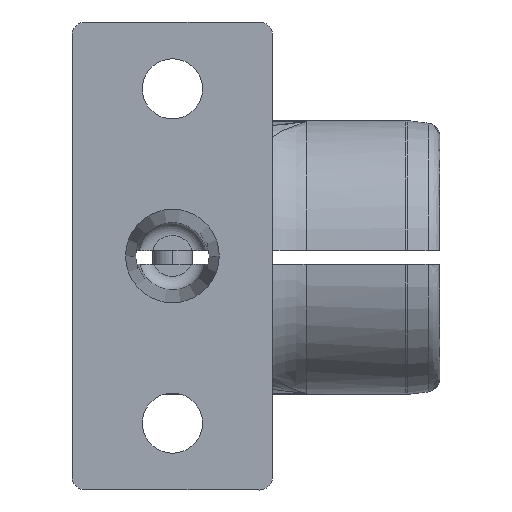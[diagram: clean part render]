
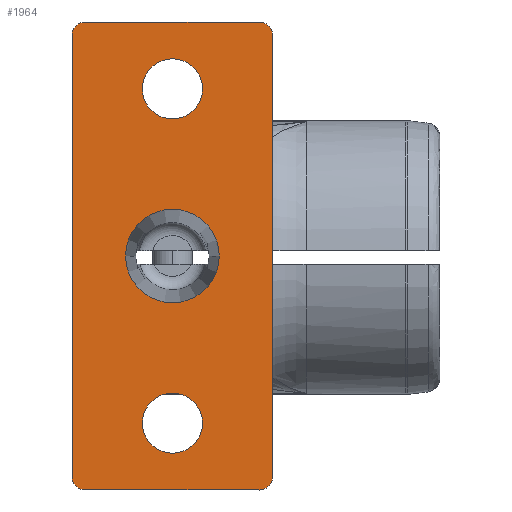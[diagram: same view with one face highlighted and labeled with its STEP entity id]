
A CAD part, front view. The second image highlights one B-rep face of the part: STEP entity #1964.
In plain terms, the highlighted planar face has unit normal (0, -1, 0).
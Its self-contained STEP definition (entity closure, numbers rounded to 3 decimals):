
#57 = DIRECTION ( 'NONE',  ( 0., -1., 0. ) ) ;
#78 = ORIENTED_EDGE ( 'NONE', *, *, #4363, .F. ) ;
#97 = EDGE_CURVE ( 'NONE', #3947, #438, #1578, .T. ) ;
#223 = CARTESIAN_POINT ( 'NONE',  ( 13., -10., -14.268 ) ) ;
#238 = CARTESIAN_POINT ( 'NONE',  ( -13., -10., 53.732 ) ) ;
#284 = DIRECTION ( 'NONE',  ( 0., 0., 1. ) ) ;
#296 = CIRCLE ( 'NONE', #488, 4.5 ) ;
#303 = DIRECTION ( 'NONE',  ( 0., 1., 0. ) ) ;
#368 = VECTOR ( 'NONE', #1536, 1000. ) ;
#384 = VERTEX_POINT ( 'NONE', #689 ) ;
#386 = EDGE_CURVE ( 'NONE', #2908, #4023, #1048, .T. ) ;
#438 = VERTEX_POINT ( 'NONE', #720 ) ;
#488 = AXIS2_PLACEMENT_3D ( 'NONE', #1653, #5654, #5032 ) ;
#594 = AXIS2_PLACEMENT_3D ( 'NONE', #5539, #6205, #6917 ) ;
#601 = ORIENTED_EDGE ( 'NONE', *, *, #2878, .F. ) ;
#648 = EDGE_CURVE ( 'NONE', #4645, #3729, #6419, .T. ) ;
#689 = CARTESIAN_POINT ( 'NONE',  ( -13., -10., -14.268 ) ) ;
#720 = CARTESIAN_POINT ( 'NONE',  ( 4.5, -10., -4.268 ) ) ;
#774 = DIRECTION ( 'NONE',  ( 1., 0., 0. ) ) ;
#804 = LINE ( 'NONE', #5685, #368 ) ;
#827 = ORIENTED_EDGE ( 'NONE', *, *, #7464, .F. ) ;
#1047 = DIRECTION ( 'NONE',  ( 1., 0., 0. ) ) ;
#1048 = CIRCLE ( 'NONE', #5274, 7. ) ;
#1072 = DIRECTION ( 'NONE',  ( 0., 1., 0. ) ) ;
#1132 = EDGE_CURVE ( 'NONE', #6578, #3560, #4669, .T. ) ;
#1243 = CARTESIAN_POINT ( 'NONE',  ( -15., -10., -12.268 ) ) ;
#1266 = CARTESIAN_POINT ( 'NONE',  ( 13., -10., 53.732 ) ) ;
#1268 = PLANE ( 'NONE',  #8537 ) ;
#1350 = CARTESIAN_POINT ( 'NONE',  ( 13., -10., 55.732 ) ) ;
#1399 = AXIS2_PLACEMENT_3D ( 'NONE', #4472, #7196, #2517 ) ;
#1422 = CIRCLE ( 'NONE', #594, 4.5 ) ;
#1474 = CARTESIAN_POINT ( 'NONE',  ( 0., -10., -14.268 ) ) ;
#1479 = LINE ( 'NONE', #1773, #5126 ) ;
#1536 = DIRECTION ( 'NONE',  ( 0., 0., -1. ) ) ;
#1578 = CIRCLE ( 'NONE', #6915, 4.5 ) ;
#1636 = CIRCLE ( 'NONE', #6639, 2. ) ;
#1653 = CARTESIAN_POINT ( 'NONE',  ( 0., -10., -4.268 ) ) ;
#1773 = CARTESIAN_POINT ( 'NONE',  ( 0., -10., 55.732 ) ) ;
#1791 = EDGE_CURVE ( 'NONE', #6375, #5290, #1422, .T. ) ;
#1872 = EDGE_CURVE ( 'NONE', #384, #7769, #1636, .T. ) ;
#1881 = ORIENTED_EDGE ( 'NONE', *, *, #6021, .F. ) ;
#1964 = ADVANCED_FACE ( 'NONE', ( #7835, #4313, #4735, #7274 ), #1268, .F. ) ;
#1998 = ORIENTED_EDGE ( 'NONE', *, *, #6242, .F. ) ;
#2340 = CARTESIAN_POINT ( 'NONE',  ( 0., -10., 20.732 ) ) ;
#2431 = DIRECTION ( 'NONE',  ( 1., 0., 0. ) ) ;
#2442 = DIRECTION ( 'NONE',  ( 0., -1., 0. ) ) ;
#2517 = DIRECTION ( 'NONE',  ( 1., 0., 0. ) ) ;
#2581 = LINE ( 'NONE', #1474, #5778 ) ;
#2683 = CIRCLE ( 'NONE', #1399, 4.5 ) ;
#2834 = CARTESIAN_POINT ( 'NONE',  ( 0., -10., 20.732 ) ) ;
#2878 = EDGE_CURVE ( 'NONE', #4023, #2908, #3671, .T. ) ;
#2908 = VERTEX_POINT ( 'NONE', #7190 ) ;
#2961 = DIRECTION ( 'NONE',  ( -1., 0., 0. ) ) ;
#3138 = EDGE_LOOP ( 'NONE', ( #1881, #6918, #6428, #8419, #5605, #6888, #827, #3618 ) ) ;
#3300 = AXIS2_PLACEMENT_3D ( 'NONE', #238, #7174, #6831 ) ;
#3560 = VERTEX_POINT ( 'NONE', #223 ) ;
#3618 = ORIENTED_EDGE ( 'NONE', *, *, #648, .F. ) ;
#3671 = CIRCLE ( 'NONE', #4153, 7. ) ;
#3695 = DIRECTION ( 'NONE',  ( 1., 0., 0. ) ) ;
#3729 = VERTEX_POINT ( 'NONE', #5623 ) ;
#3845 = CARTESIAN_POINT ( 'NONE',  ( -13., -10., -12.268 ) ) ;
#3947 = VERTEX_POINT ( 'NONE', #4851 ) ;
#3997 = CARTESIAN_POINT ( 'NONE',  ( 0., -10., 20.732 ) ) ;
#4023 = VERTEX_POINT ( 'NONE', #5037 ) ;
#4153 = AXIS2_PLACEMENT_3D ( 'NONE', #2340, #8459, #2431 ) ;
#4183 = CARTESIAN_POINT ( 'NONE',  ( 4.5, -10., 45.732 ) ) ;
#4195 = EDGE_CURVE ( 'NONE', #3560, #384, #2581, .T. ) ;
#4306 = AXIS2_PLACEMENT_3D ( 'NONE', #5672, #303, #3695 ) ;
#4313 = FACE_BOUND ( 'NONE', #4718, .T. ) ;
#4363 = EDGE_CURVE ( 'NONE', #5290, #6375, #2683, .T. ) ;
#4472 = CARTESIAN_POINT ( 'NONE',  ( 0., -10., 45.732 ) ) ;
#4645 = VERTEX_POINT ( 'NONE', #1350 ) ;
#4669 = CIRCLE ( 'NONE', #4306, 2. ) ;
#4718 = EDGE_LOOP ( 'NONE', ( #78, #7674 ) ) ;
#4726 = EDGE_LOOP ( 'NONE', ( #1998, #8596 ) ) ;
#4735 = FACE_BOUND ( 'NONE', #4726, .T. ) ;
#4851 = CARTESIAN_POINT ( 'NONE',  ( -4.5, -10., -4.268 ) ) ;
#4938 = EDGE_CURVE ( 'NONE', #5797, #7960, #7603, .T. ) ;
#5000 = VECTOR ( 'NONE', #284, 1000. ) ;
#5032 = DIRECTION ( 'NONE',  ( 1., 0., 0. ) ) ;
#5037 = CARTESIAN_POINT ( 'NONE',  ( 7., -10., 20.732 ) ) ;
#5126 = VECTOR ( 'NONE', #5140, 1000. ) ;
#5140 = DIRECTION ( 'NONE',  ( 1., 0., 0. ) ) ;
#5274 = AXIS2_PLACEMENT_3D ( 'NONE', #2834, #57, #6130 ) ;
#5290 = VERTEX_POINT ( 'NONE', #4183 ) ;
#5539 = CARTESIAN_POINT ( 'NONE',  ( 0., -10., 45.732 ) ) ;
#5605 = ORIENTED_EDGE ( 'NONE', *, *, #4195, .F. ) ;
#5620 = CARTESIAN_POINT ( 'NONE',  ( -15., -10., 53.732 ) ) ;
#5623 = CARTESIAN_POINT ( 'NONE',  ( 15., -10., 53.732 ) ) ;
#5654 = DIRECTION ( 'NONE',  ( 0., -1., 0. ) ) ;
#5672 = CARTESIAN_POINT ( 'NONE',  ( 13., -10., -12.268 ) ) ;
#5685 = CARTESIAN_POINT ( 'NONE',  ( 15., -10., 20.732 ) ) ;
#5778 = VECTOR ( 'NONE', #2961, 1000. ) ;
#5797 = VERTEX_POINT ( 'NONE', #5620 ) ;
#5866 = DIRECTION ( 'NONE',  ( 1., 0., 0. ) ) ;
#5933 = LINE ( 'NONE', #7127, #5000 ) ;
#6021 = EDGE_CURVE ( 'NONE', #7960, #4645, #1479, .T. ) ;
#6052 = CARTESIAN_POINT ( 'NONE',  ( 15., -10., -12.268 ) ) ;
#6058 = DIRECTION ( 'NONE',  ( -1., 0., 0. ) ) ;
#6130 = DIRECTION ( 'NONE',  ( 1., 0., 0. ) ) ;
#6202 = EDGE_CURVE ( 'NONE', #7769, #5797, #5933, .T. ) ;
#6205 = DIRECTION ( 'NONE',  ( 0., -1., 0. ) ) ;
#6242 = EDGE_CURVE ( 'NONE', #438, #3947, #296, .T. ) ;
#6328 = ORIENTED_EDGE ( 'NONE', *, *, #386, .F. ) ;
#6375 = VERTEX_POINT ( 'NONE', #8582 ) ;
#6419 = CIRCLE ( 'NONE', #8297, 2. ) ;
#6428 = ORIENTED_EDGE ( 'NONE', *, *, #6202, .F. ) ;
#6578 = VERTEX_POINT ( 'NONE', #6052 ) ;
#6639 = AXIS2_PLACEMENT_3D ( 'NONE', #3845, #1072, #1047 ) ;
#6670 = EDGE_LOOP ( 'NONE', ( #601, #6328 ) ) ;
#6831 = DIRECTION ( 'NONE',  ( 1., 0., 0. ) ) ;
#6888 = ORIENTED_EDGE ( 'NONE', *, *, #1132, .F. ) ;
#6915 = AXIS2_PLACEMENT_3D ( 'NONE', #7177, #2442, #5866 ) ;
#6917 = DIRECTION ( 'NONE',  ( 1., 0., 0. ) ) ;
#6918 = ORIENTED_EDGE ( 'NONE', *, *, #4938, .F. ) ;
#7127 = CARTESIAN_POINT ( 'NONE',  ( -15., -10., 20.732 ) ) ;
#7174 = DIRECTION ( 'NONE',  ( 0., 1., 0. ) ) ;
#7177 = CARTESIAN_POINT ( 'NONE',  ( 0., -10., -4.268 ) ) ;
#7190 = CARTESIAN_POINT ( 'NONE',  ( -7., -10., 20.732 ) ) ;
#7196 = DIRECTION ( 'NONE',  ( 0., -1., 0. ) ) ;
#7274 = FACE_OUTER_BOUND ( 'NONE', #3138, .T. ) ;
#7464 = EDGE_CURVE ( 'NONE', #3729, #6578, #804, .T. ) ;
#7603 = CIRCLE ( 'NONE', #3300, 2. ) ;
#7674 = ORIENTED_EDGE ( 'NONE', *, *, #1791, .F. ) ;
#7769 = VERTEX_POINT ( 'NONE', #1243 ) ;
#7835 = FACE_BOUND ( 'NONE', #6670, .T. ) ;
#7960 = VERTEX_POINT ( 'NONE', #8839 ) ;
#8297 = AXIS2_PLACEMENT_3D ( 'NONE', #1266, #8797, #774 ) ;
#8419 = ORIENTED_EDGE ( 'NONE', *, *, #1872, .F. ) ;
#8459 = DIRECTION ( 'NONE',  ( 0., -1., 0. ) ) ;
#8537 = AXIS2_PLACEMENT_3D ( 'NONE', #3997, #8862, #6058 ) ;
#8582 = CARTESIAN_POINT ( 'NONE',  ( -4.5, -10., 45.732 ) ) ;
#8596 = ORIENTED_EDGE ( 'NONE', *, *, #97, .F. ) ;
#8797 = DIRECTION ( 'NONE',  ( 0., 1., 0. ) ) ;
#8839 = CARTESIAN_POINT ( 'NONE',  ( -13., -10., 55.732 ) ) ;
#8862 = DIRECTION ( 'NONE',  ( 0., 1., 0. ) ) ;
